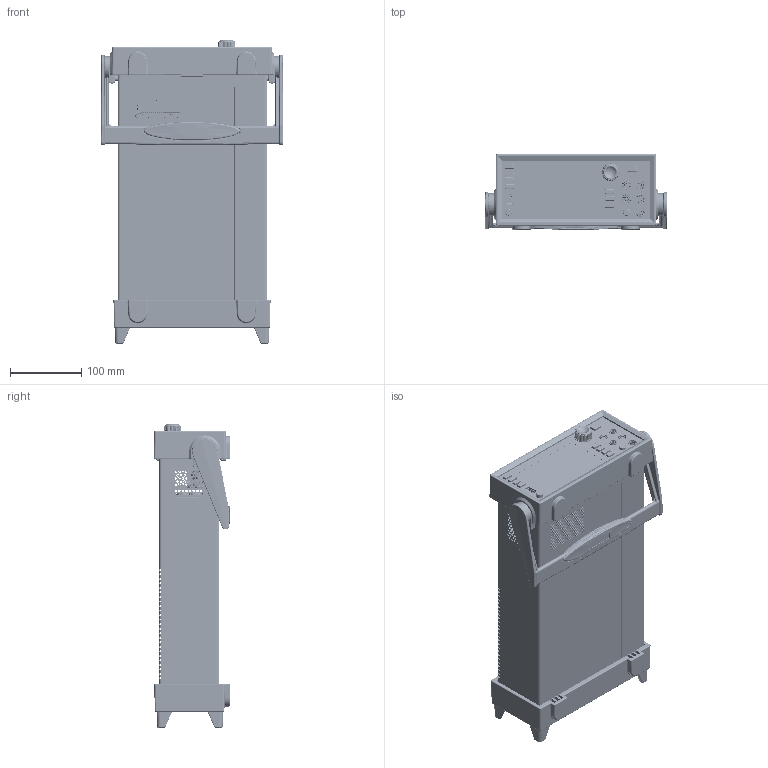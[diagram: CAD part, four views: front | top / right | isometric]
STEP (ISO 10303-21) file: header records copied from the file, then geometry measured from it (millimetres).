
FILE_DESCRIPTION((''),'2;1');
FILE_NAME('2470_ASM','2018-04-16T',('dking'),('Keithley Instruments'),'CREO PARAMETRIC BY PTC INC, 2016050','CREO PARAMETRIC BY PTC INC, 2016050','');
FILE_SCHEMA(('AUTOMOTIVE_DESIGN { 1 0 10303 214 1 1 1 1 }'));
Length unit declared in the file: inch
Products named in the file (128): 2450-301; PEM-SOS-632-8; PEM-BS-632-2; PEM-BSOS-632-18; PEM-CLS-632-2; PEM-FHS-632-6; PEM-RAS-632-10-8; 2450-301_ASM; 2450-132; 2450-132-TOP-COMP; 2450-132-BOT-COMP; SW-466; CS-1234; 7002-323-2; CS-784-4; CS-1640-14; CS-1646-4; 2450-130_ASM; 2450-317; PEM-RAS-632-8; 2450-317_ASM; GR-71-750; ST-276; FN-62; 1197900; 2450-303; PEM-AC-632-2; 2450-303_ASM; LF-11-PURCHPART; 2450-321; PEM-IBB-632-8; 2450-321_ASM; 2450-305; 3354038; TM8167; 3354038_ASM; 2450-313; 2450-313-1; 2450-313-2; 2450-314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
Assembly tree (264 placements, depth 5):
  2470_ASM
    2450-301_ASM
      2450-301
      PEM-SOS-632-8  x4
      PEM-BS-632-2  x4
      PEM-BSOS-632-18  x4
      PEM-CLS-632-2  x6
      PEM-FHS-632-6
      PEM-RAS-632-10-8  x3
    2450-130_ASM
      2450-132
      2450-132-TOP-COMP
      2450-132-BOT-COMP
      SW-466
      CS-1234
      7002-323-2
      CS-784-4
      CS-1640-14
      CS-1646-4
    2450-317_ASM
      2450-317
      PEM-CLS-632-2  x4
      PEM-RAS-632-8
      PEM-SOS-632-8  x4
    GR-71-750  x3
    ST-276  x4
    FN-62
    1197900
    2450-303_ASM
      2450-303
      PEM-CLS-632-2  x3
      PEM-AC-632-2
      PEM-BS-632-2  x2
    LF-11-PURCHPART
    2450-321_ASM
      2450-321
      PEM-IBB-632-8  x3
    2470-FRONT-PANEL-ASSEMBLY_ASM
      2450-305
      2470-FP-INSERT_ASM
        3354038_ASM
          3354038
          TM8167
        2450-313_ASM
          2450-313
          2450-313-1
          2450-313-2
          2450-314
        2450-112_ASM
          2450-112
          PEM-KFB3-632-8  x5
          2450-112-TOP-COMP
          2450-112-BOT-COMP
          CS-1649-40
          CS-1173-1
          CS-1650-6
          CS-1665  x4
          CS-1664-40
        DD-77_ASM
          DD-77
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Bounding box: 255.27 x 107.15 x 425.36 mm (x, y, z)
Volume: 1693823.6 mm3; surface area: 1619919.1 mm2
Topology: 247 solids, 293 shells, 34639 faces, 92778 edges, 59881 vertices
Faces by surface type: plane 20818, cylinder 10332, cone 1375, bspline 914, torus 778, sphere 240, extrusion 182
Entity records: 1230795 total; most frequent: CARTESIAN_POINT 225431, ORIENTED_EDGE 149098, DIRECTION 143012, PRESENTATION_STYLE_ASSIGNMENT 79407, STYLED_ITEM 75031, CURVE_STYLE 74703, EDGE_CURVE 74691, VECTOR 53112
